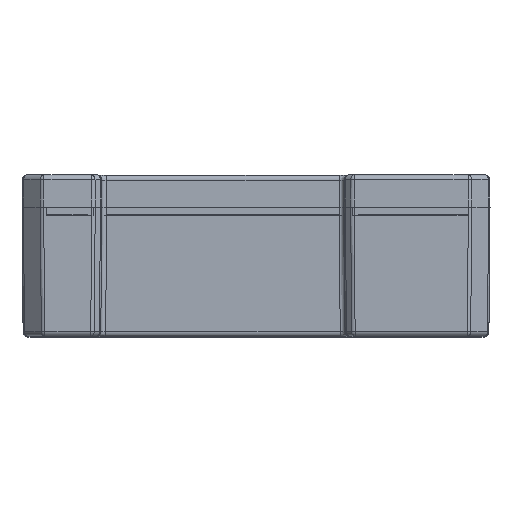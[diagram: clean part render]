
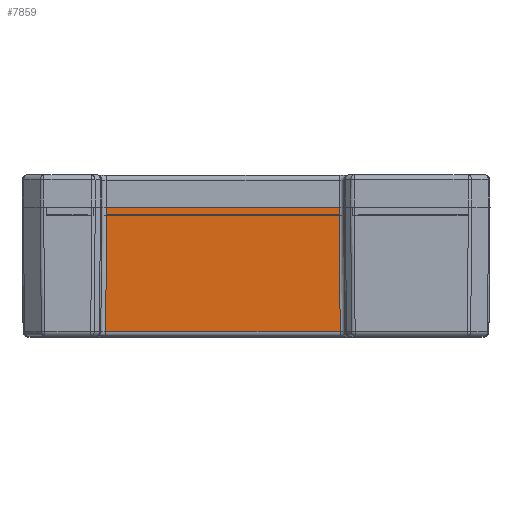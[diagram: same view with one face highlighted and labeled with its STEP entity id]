
A CAD part, top view. The second image highlights one B-rep face of the part: STEP entity #7859.
In plain terms, the highlighted planar face has unit normal (0, -0.009, 1).
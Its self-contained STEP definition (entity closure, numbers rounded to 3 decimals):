
#422=LINE('',#12037,#1308);
#423=LINE('',#12039,#1309);
#424=LINE('',#12041,#1310);
#425=LINE('',#12042,#1311);
#1308=VECTOR('',#9526,1.);
#1309=VECTOR('',#9527,1.);
#1310=VECTOR('',#9528,1.);
#1311=VECTOR('',#9529,1.);
#1929=PLANE('',#8381);
#2312=FACE_OUTER_BOUND('',#2794,.T.);
#2794=EDGE_LOOP('',(#5819,#5820,#5821,#5822));
#3762=VERTEX_POINT('',#12035);
#3763=VERTEX_POINT('',#12036);
#3764=VERTEX_POINT('',#12038);
#3765=VERTEX_POINT('',#12040);
#4552=EDGE_CURVE('',#3762,#3763,#422,.T.);
#4553=EDGE_CURVE('',#3763,#3764,#423,.T.);
#4554=EDGE_CURVE('',#3764,#3765,#424,.T.);
#4555=EDGE_CURVE('',#3762,#3765,#425,.T.);
#5819=ORIENTED_EDGE('',*,*,#4552,.T.);
#5820=ORIENTED_EDGE('',*,*,#4553,.T.);
#5821=ORIENTED_EDGE('',*,*,#4554,.T.);
#5822=ORIENTED_EDGE('',*,*,#4555,.F.);
#7859=ADVANCED_FACE('',(#2312),#1929,.F.);
#8381=AXIS2_PLACEMENT_3D('',#12034,#9524,#9525);
#9524=DIRECTION('center_axis',(0.,0.009,-1.));
#9525=DIRECTION('ref_axis',(1.,0.,0.));
#9526=DIRECTION('',(-0.009,-1.,-0.009));
#9527=DIRECTION('',(1.,0.,0.));
#9528=DIRECTION('',(-0.009,1.,0.009));
#9529=DIRECTION('',(1.,0.,0.));
#12034=CARTESIAN_POINT('Origin',(-0.415,3.747,58.825));
#12035=CARTESIAN_POINT('',(-16.935,3.747,58.825));
#12036=CARTESIAN_POINT('',(-17.002,-3.956,58.758));
#12037=CARTESIAN_POINT('',(-17.005,-4.256,58.755));
#12038=CARTESIAN_POINT('',(-2.468,-3.956,58.758));
#12039=CARTESIAN_POINT('',(-0.415,-3.956,58.758));
#12040=CARTESIAN_POINT('',(-2.535,3.747,58.825));
#12041=CARTESIAN_POINT('',(-2.535,3.744,58.825));
#12042=CARTESIAN_POINT('',(-17.485,3.747,58.825));
